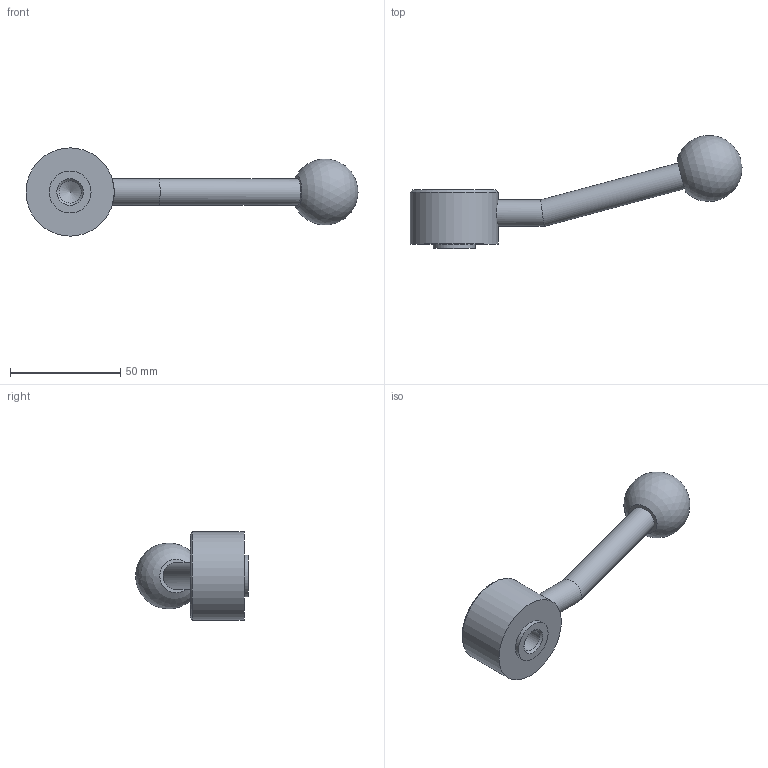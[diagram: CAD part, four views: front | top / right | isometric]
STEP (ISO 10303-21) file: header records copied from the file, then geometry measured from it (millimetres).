
FILE_DESCRIPTION( ( 'STEP AP203' ), '1' );
FILE_NAME( 'C:/Temp/Ganter_Step_05_03_2020/data/2_1/gn_125/gn_125_mb/gn_125_mb_e/Flat Adjustable Lever GN 125-40-M12-E.stp', '2020-03-05T11:00:42', ( 'License CC BY-ND 4.0' ), ( 'CADENAS' ), ' ', 'PARTsolutions', ' ' );
FILE_SCHEMA( ( 'CONFIG_CONTROL_DESIGN' ) );
Length unit declared in the file: millimetre
Products named in the file (1): _Flat Adjustable Lever GN 125-40-M12-E
Bounding box: 150.51 x 51.21 x 40 mm (x, y, z)
Volume: 53295 mm3; surface area: 12011 mm2
Topology: 1 solids, 1 shells, 15 faces, 27 edges, 17 vertices
Faces by surface type: cylinder 6, plane 5, cone 3, sphere 1
Full cylindrical faces by diameter (mm): 10.106 x1, 12 x2, 19 x1, 28 x1, 40 x1
Entity records: 426 total; most frequent: CARTESIAN_POINT 129, DIRECTION 58, AXIS2_PLACEMENT_3D 29, EDGE_LOOP 28, ORIENTED_EDGE 28, FACE_OUTER_BOUND 21, VERTEX_POINT 16, ADVANCED_FACE 15
